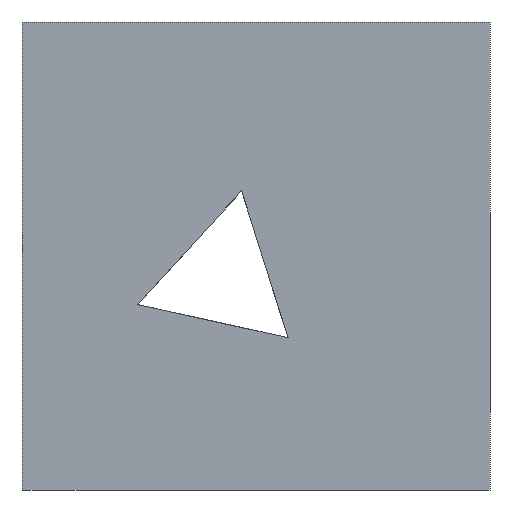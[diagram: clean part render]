
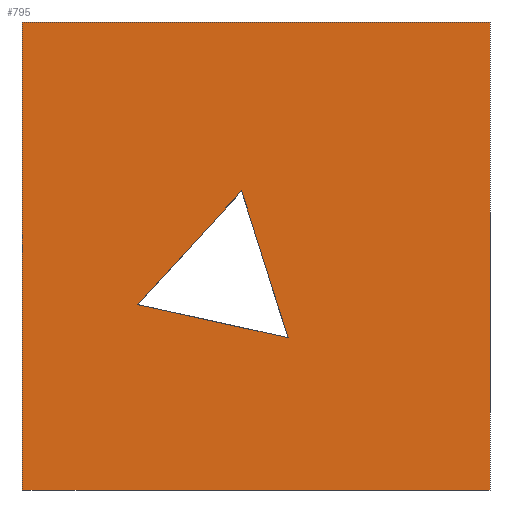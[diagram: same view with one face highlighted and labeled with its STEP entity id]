
A CAD part, left-side view. The second image highlights one B-rep face of the part: STEP entity #795.
In plain terms, the highlighted planar face has unit normal (-1, 0, 0).
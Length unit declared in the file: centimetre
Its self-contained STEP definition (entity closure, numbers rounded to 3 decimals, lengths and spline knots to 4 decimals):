
#5 = VECTOR ( 'NONE', #620, 100. ) ;
#21 = LINE ( 'NONE', #528, #771 ) ;
#59 = VECTOR ( 'NONE', #526, 100. ) ;
#60 = DIRECTION ( 'NONE',  ( 0., 0.977, 0.215 ) ) ;
#100 = AXIS2_PLACEMENT_3D ( 'NONE', #468, #758, #199 ) ;
#132 = CARTESIAN_POINT ( 'NONE',  ( 0., 530.7535, 639.1139 ) ) ;
#141 = LINE ( 'NONE', #420, #840 ) ;
#181 = EDGE_LOOP ( 'NONE', ( #203, #401, #365 ) ) ;
#190 = CARTESIAN_POINT ( 'NONE',  ( 0., 431.4606, 325.3577 ) ) ;
#199 = DIRECTION ( 'NONE',  ( 0., 0., -1. ) ) ;
#203 = ORIENTED_EDGE ( 'NONE', *, *, #472, .T. ) ;
#206 = VERTEX_POINT ( 'NONE', #603 ) ;
#220 = VERTEX_POINT ( 'NONE', #850 ) ;
#231 = VERTEX_POINT ( 'NONE', #132 ) ;
#233 = LINE ( 'NONE', #664, #312 ) ;
#244 = CARTESIAN_POINT ( 'NONE',  ( 0., 1000., 0. ) ) ;
#266 = CARTESIAN_POINT ( 'NONE',  ( 0., 1000., 0. ) ) ;
#271 = CARTESIAN_POINT ( 'NONE',  ( 0., 752.8279, 396.2456 ) ) ;
#277 = VERTEX_POINT ( 'NONE', #829 ) ;
#283 = EDGE_CURVE ( 'NONE', #231, #470, #21, .T. ) ;
#293 = VECTOR ( 'NONE', #60, 100. ) ;
#312 = VECTOR ( 'NONE', #696, 100. ) ;
#316 = ORIENTED_EDGE ( 'NONE', *, *, #494, .T. ) ;
#349 = VERTEX_POINT ( 'NONE', #244 ) ;
#351 = CARTESIAN_POINT ( 'NONE',  ( 0., 1000., 1000. ) ) ;
#365 = ORIENTED_EDGE ( 'NONE', *, *, #283, .T. ) ;
#373 = CARTESIAN_POINT ( 'NONE',  ( 0., 530.7535, 639.1139 ) ) ;
#376 = ORIENTED_EDGE ( 'NONE', *, *, #616, .F. ) ;
#401 = ORIENTED_EDGE ( 'NONE', *, *, #671, .T. ) ;
#420 = CARTESIAN_POINT ( 'NONE',  ( 0., 1000., 1000. ) ) ;
#462 = VECTOR ( 'NONE', #806, 100. ) ;
#468 = CARTESIAN_POINT ( 'NONE',  ( 0., 1000., 1000. ) ) ;
#469 = LINE ( 'NONE', #271, #293 ) ;
#470 = VERTEX_POINT ( 'NONE', #190 ) ;
#472 = EDGE_CURVE ( 'NONE', #470, #220, #469, .T. ) ;
#476 = FACE_BOUND ( 'NONE', #181, .T. ) ;
#494 = EDGE_CURVE ( 'NONE', #349, #580, #833, .T. ) ;
#509 = DIRECTION ( 'NONE',  ( 0., 0., -1. ) ) ;
#526 = DIRECTION ( 'NONE',  ( 0., -0.675, 0.738 ) ) ;
#528 = CARTESIAN_POINT ( 'NONE',  ( 0., 431.4606, 325.3577 ) ) ;
#577 = CARTESIAN_POINT ( 'NONE',  ( 0., 0., 0. ) ) ;
#580 = VERTEX_POINT ( 'NONE', #577 ) ;
#600 = DIRECTION ( 'NONE',  ( 0., -0.302, -0.953 ) ) ;
#603 = CARTESIAN_POINT ( 'NONE',  ( 0., 1000., 1000. ) ) ;
#616 = EDGE_CURVE ( 'NONE', #206, #277, #718, .T. ) ;
#620 = DIRECTION ( 'NONE',  ( 0., -1., 0. ) ) ;
#623 = EDGE_CURVE ( 'NONE', #206, #349, #141, .T. ) ;
#651 = ORIENTED_EDGE ( 'NONE', *, *, #623, .T. ) ;
#664 = CARTESIAN_POINT ( 'NONE',  ( 0., 0., 1000. ) ) ;
#671 = EDGE_CURVE ( 'NONE', #220, #231, #738, .T. ) ;
#696 = DIRECTION ( 'NONE',  ( 0., 0., -1. ) ) ;
#718 = LINE ( 'NONE', #351, #462 ) ;
#734 = EDGE_CURVE ( 'NONE', #277, #580, #233, .T. ) ;
#738 = LINE ( 'NONE', #373, #59 ) ;
#758 = DIRECTION ( 'NONE',  ( 1., 0., 0. ) ) ;
#771 = VECTOR ( 'NONE', #600, 100. ) ;
#795 = ADVANCED_FACE ( 'NONE', ( #476, #851 ), #837, .F. ) ;
#796 = EDGE_LOOP ( 'NONE', ( #316, #843, #376, #651 ) ) ;
#806 = DIRECTION ( 'NONE',  ( 0., -1., 0. ) ) ;
#829 = CARTESIAN_POINT ( 'NONE',  ( 0., 0., 1000. ) ) ;
#833 = LINE ( 'NONE', #266, #5 ) ;
#837 = PLANE ( 'NONE',  #100 ) ;
#840 = VECTOR ( 'NONE', #509, 100. ) ;
#843 = ORIENTED_EDGE ( 'NONE', *, *, #734, .F. ) ;
#850 = CARTESIAN_POINT ( 'NONE',  ( 0., 752.8279, 396.2456 ) ) ;
#851 = FACE_OUTER_BOUND ( 'NONE', #796, .T. ) ;
